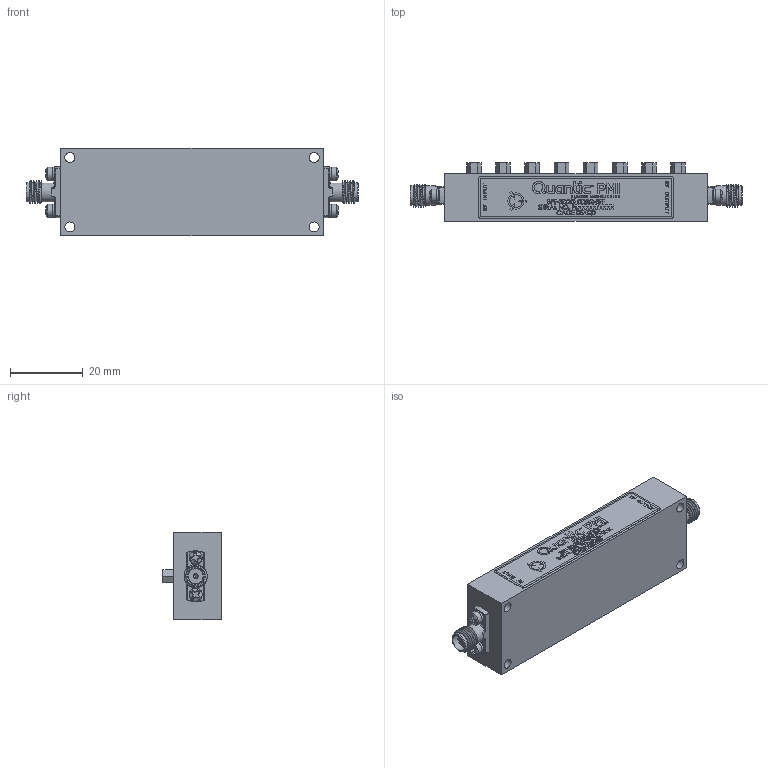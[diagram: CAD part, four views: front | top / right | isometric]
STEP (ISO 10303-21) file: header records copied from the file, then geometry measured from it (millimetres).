
FILE_DESCRIPTION (( 'STEP AP214' ), '1' );
FILE_NAME ('BPF-3D2G-0D8G-SFF.STEP', '2024-10-15T20:01:22', ( '' ), ( '' ), 'SwSTEP 2.0', 'SolidWorks 2024', '' );
FILE_SCHEMA (( 'AUTOMOTIVE_DESIGN' ));
Length unit declared in the file: inch
Products named in the file (1): BPF-3D2G-0D8G-SFF
Bounding box: 91.05 x 16 x 24.13 mm (x, y, z)
Volume: 23064.6 mm3; surface area: 9294.8 mm2
Topology: 16 solids, 16 shells, 539 faces, 2192 edges, 1836 vertices
Faces by surface type: plane 329, cylinder 92, torus 58, cone 28, bspline 28, sphere 4
Full cylindrical faces by diameter (mm): 0.381 x2, 0.508 x2, 0.635 x2, 1.016 x2, 1.27 x2, 1.778 x4, 1.943 x2, 2.184 x8, 2.591 x4, 2.7 x4, 3.556 x4, 4.191 x4, 4.597 x2, 5.283 x2, 5.334 x2
Entity records: 35114 total; most frequent: CARTESIAN_POINT 10311, ORIENTED_EDGE 4144, DIRECTION 2987, EDGE_CURVE 2072, VERTEX_POINT 1820, VECTOR 1231, LINE 1231, AXIS2_PLACEMENT_3D 878
